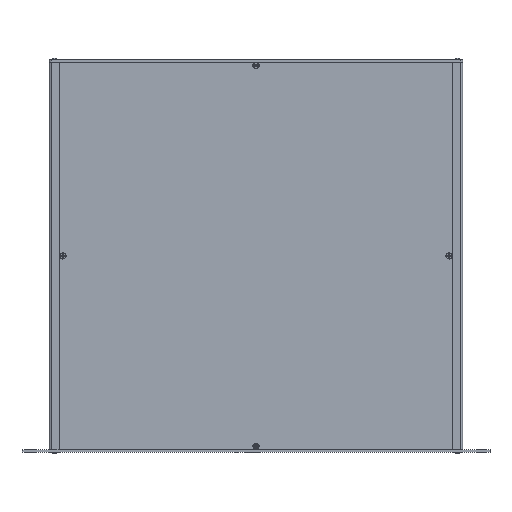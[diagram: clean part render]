
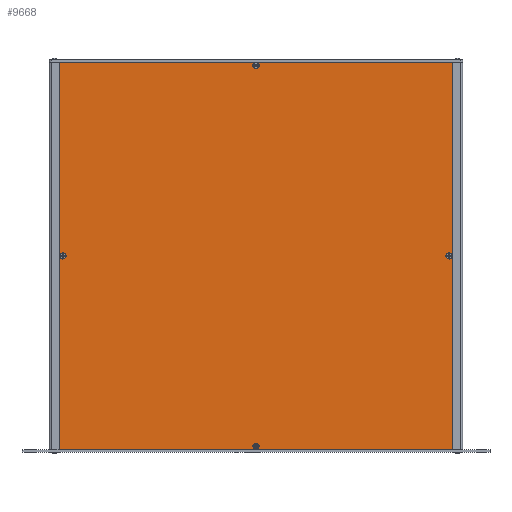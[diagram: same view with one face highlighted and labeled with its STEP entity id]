
A CAD part, top view. The second image highlights one B-rep face of the part: STEP entity #9668.
In plain terms, the highlighted planar face has unit normal (0, 0, 1).
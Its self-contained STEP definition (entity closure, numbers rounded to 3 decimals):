
#715=FACE_BOUND('',#1911,.T.);
#716=FACE_BOUND('',#1912,.T.);
#717=FACE_BOUND('',#1913,.T.);
#718=FACE_BOUND('',#1914,.T.);
#1042=PLANE('',#10568);
#1332=FACE_OUTER_BOUND('',#1910,.T.);
#1910=EDGE_LOOP('',(#7265,#7266,#7267,#7268));
#1911=EDGE_LOOP('',(#7269));
#1912=EDGE_LOOP('',(#7270));
#1913=EDGE_LOOP('',(#7271));
#1914=EDGE_LOOP('',(#7272));
#2833=LINE('',#15176,#3563);
#2834=LINE('',#15178,#3564);
#2835=LINE('',#15180,#3565);
#2836=LINE('',#15181,#3566);
#3563=VECTOR('',#12123,10.);
#3564=VECTOR('',#12124,10.);
#3565=VECTOR('',#12125,10.);
#3566=VECTOR('',#12126,10.);
#4103=CIRCLE('',#10564,3.2);
#4106=CIRCLE('',#10569,3.2);
#4107=CIRCLE('',#10570,3.2);
#4108=CIRCLE('',#10571,3.2);
#4710=VERTEX_POINT('',#15164);
#4713=VERTEX_POINT('',#15174);
#4714=VERTEX_POINT('',#15175);
#4715=VERTEX_POINT('',#15177);
#4716=VERTEX_POINT('',#15179);
#4717=VERTEX_POINT('',#15182);
#4718=VERTEX_POINT('',#15184);
#4719=VERTEX_POINT('',#15186);
#5642=EDGE_CURVE('',#4710,#4710,#4103,.T.);
#5647=EDGE_CURVE('',#4713,#4714,#2833,.T.);
#5648=EDGE_CURVE('',#4714,#4715,#2834,.T.);
#5649=EDGE_CURVE('',#4716,#4715,#2835,.T.);
#5650=EDGE_CURVE('',#4713,#4716,#2836,.T.);
#5651=EDGE_CURVE('',#4717,#4717,#4106,.T.);
#5652=EDGE_CURVE('',#4718,#4718,#4107,.T.);
#5653=EDGE_CURVE('',#4719,#4719,#4108,.T.);
#7265=ORIENTED_EDGE('',*,*,#5647,.T.);
#7266=ORIENTED_EDGE('',*,*,#5648,.T.);
#7267=ORIENTED_EDGE('',*,*,#5649,.F.);
#7268=ORIENTED_EDGE('',*,*,#5650,.F.);
#7269=ORIENTED_EDGE('',*,*,#5651,.F.);
#7270=ORIENTED_EDGE('',*,*,#5652,.F.);
#7271=ORIENTED_EDGE('',*,*,#5653,.F.);
#7272=ORIENTED_EDGE('',*,*,#5642,.F.);
#9668=ADVANCED_FACE('',(#1332,#715,#716,#717,#718),#1042,.T.);
#10564=AXIS2_PLACEMENT_3D('',#15165,#12111,#12112);
#10568=AXIS2_PLACEMENT_3D('',#15173,#12121,#12122);
#10569=AXIS2_PLACEMENT_3D('',#15183,#12127,#12128);
#10570=AXIS2_PLACEMENT_3D('',#15185,#12129,#12130);
#10571=AXIS2_PLACEMENT_3D('',#15187,#12131,#12132);
#12111=DIRECTION('center_axis',(0.,0.,1.));
#12112=DIRECTION('ref_axis',(-1.,0.,0.));
#12121=DIRECTION('center_axis',(0.,0.,1.));
#12122=DIRECTION('ref_axis',(1.,0.,0.));
#12123=DIRECTION('',(1.,0.,0.));
#12124=DIRECTION('',(0.,1.,0.));
#12125=DIRECTION('',(1.,0.,0.));
#12126=DIRECTION('',(0.,1.,0.));
#12127=DIRECTION('center_axis',(0.,0.,1.));
#12128=DIRECTION('ref_axis',(-1.,0.,0.));
#12129=DIRECTION('center_axis',(0.,0.,1.));
#12130=DIRECTION('ref_axis',(-1.,0.,0.));
#12131=DIRECTION('center_axis',(0.,0.,1.));
#12132=DIRECTION('ref_axis',(-1.,0.,0.));
#15164=CARTESIAN_POINT('',(45.5,200.,-42.05));
#15165=CARTESIAN_POINT('Origin',(42.3,200.,-42.05));
#15173=CARTESIAN_POINT('Origin',(38.4,0.,-42.05));
#15174=CARTESIAN_POINT('',(38.4,0.,-42.05));
#15175=CARTESIAN_POINT('',(444.6,0.,-42.05));
#15176=CARTESIAN_POINT('',(38.4,0.,-42.05));
#15177=CARTESIAN_POINT('',(444.6,400.,-42.05));
#15178=CARTESIAN_POINT('',(444.6,0.,-42.05));
#15179=CARTESIAN_POINT('',(38.4,400.,-42.05));
#15180=CARTESIAN_POINT('',(38.4,400.,-42.05));
#15181=CARTESIAN_POINT('',(38.4,0.,-42.05));
#15182=CARTESIAN_POINT('',(443.9,200.,-42.05));
#15183=CARTESIAN_POINT('Origin',(440.7,200.,-42.05));
#15184=CARTESIAN_POINT('',(244.7,396.5,-42.05));
#15185=CARTESIAN_POINT('Origin',(241.5,396.5,-42.05));
#15186=CARTESIAN_POINT('',(244.7,3.5,-42.05));
#15187=CARTESIAN_POINT('Origin',(241.5,3.5,-42.05));
